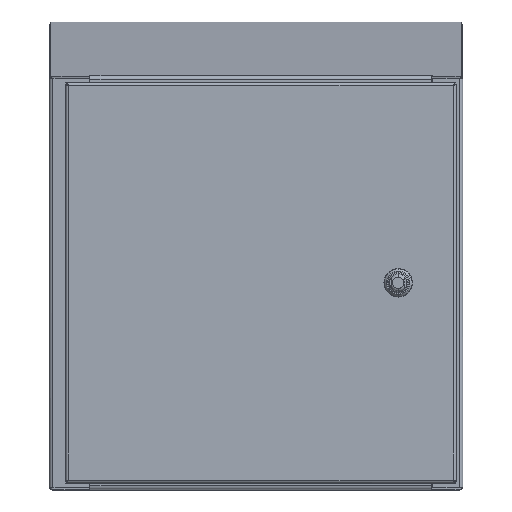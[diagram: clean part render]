
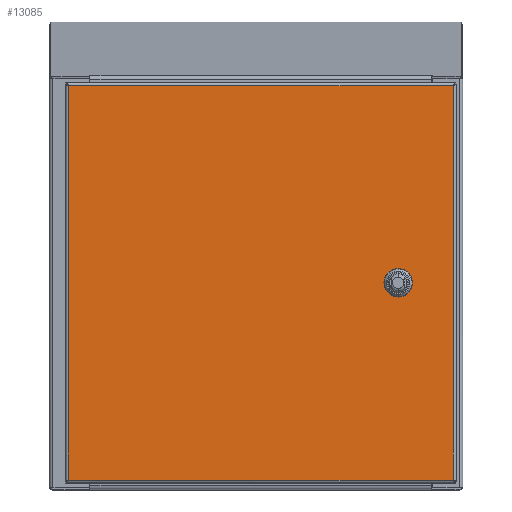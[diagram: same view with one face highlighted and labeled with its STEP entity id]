
A CAD part, top view. The second image highlights one B-rep face of the part: STEP entity #13085.
In plain terms, the highlighted planar face has unit normal (0, 0, 1).
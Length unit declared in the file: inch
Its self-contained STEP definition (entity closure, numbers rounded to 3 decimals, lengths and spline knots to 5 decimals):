
#10760=CARTESIAN_POINT('',(5.3125,0.,0.));
#10761=DIRECTION('',(0.,0.,1.));
#10762=DIRECTION('',(-0.448,0.894,0.));
#10763=AXIS2_PLACEMENT_3D('',#10760,#10761,#10762);
#10768=DIRECTION('',(0.,-1.,0.));
#10769=VECTOR('',#10768,0.39715);
#10770=CARTESIAN_POINT('',(4.9165,0.19858,0.));
#10771=LINE('',#10770,#10769);
#10775=CARTESIAN_POINT('',(5.3125,0.,0.));
#10776=DIRECTION('',(0.,0.,1.));
#10777=DIRECTION('',(-0.894,-0.448,0.));
#10778=AXIS2_PLACEMENT_3D('',#10775,#10776,#10777);
#10783=DIRECTION('',(1.,0.,0.));
#10784=VECTOR('',#10783,0.39715);
#10785=CARTESIAN_POINT('',(5.11392,-0.396,0.));
#10786=LINE('',#10785,#10784);
#10790=CARTESIAN_POINT('',(5.3125,0.,0.));
#10791=DIRECTION('',(0.,0.,1.));
#10792=DIRECTION('',(0.448,-0.894,0.));
#10793=AXIS2_PLACEMENT_3D('',#10790,#10791,#10792);
#10798=DIRECTION('',(0.,1.,0.));
#10799=VECTOR('',#10798,0.39715);
#10800=CARTESIAN_POINT('',(5.7085,-0.19858,0.));
#10801=LINE('',#10800,#10799);
#10805=CARTESIAN_POINT('',(5.3125,0.,0.));
#10806=DIRECTION('',(0.,0.,1.));
#10807=DIRECTION('',(0.894,0.448,0.));
#10808=AXIS2_PLACEMENT_3D('',#10805,#10806,#10807);
#10813=DIRECTION('',(-1.,0.,0.));
#10814=VECTOR('',#10813,0.39715);
#10815=CARTESIAN_POINT('',(5.51108,0.396,0.));
#10816=LINE('',#10815,#10814);
#11066=DIRECTION('',(-1.,0.,0.));
#11067=VECTOR('',#11066,14.885);
#11068=CARTESIAN_POINT('',(7.4425,-7.63,0.));
#11069=LINE('',#11068,#11067);
#11178=DIRECTION('',(0.,-1.,0.));
#11179=VECTOR('',#11178,15.26);
#11180=CARTESIAN_POINT('',(7.4425,7.63,0.));
#11181=LINE('',#11180,#11179);
#11227=DIRECTION('',(1.,0.,0.));
#11228=VECTOR('',#11227,14.885);
#11229=CARTESIAN_POINT('',(-7.4425,7.63,0.));
#11230=LINE('',#11229,#11228);
#11346=DIRECTION('',(0.,1.,0.));
#11347=VECTOR('',#11346,15.26);
#11348=CARTESIAN_POINT('',(-7.4425,-7.63,0.));
#11349=LINE('',#11348,#11347);
#12806=CARTESIAN_POINT('',(7.4425,7.63,0.));
#12807=CARTESIAN_POINT('',(7.4425,-7.63,0.));
#12808=VERTEX_POINT('',#12806);
#12809=VERTEX_POINT('',#12807);
#12810=CARTESIAN_POINT('',(-7.4425,-7.63,0.));
#12811=CARTESIAN_POINT('',(-7.4425,7.63,0.));
#12812=VERTEX_POINT('',#12810);
#12813=VERTEX_POINT('',#12811);
#12854=CARTESIAN_POINT('',(5.11392,0.396,0.));
#12855=CARTESIAN_POINT('',(4.9165,0.19858,0.));
#12856=VERTEX_POINT('',#12854);
#12857=VERTEX_POINT('',#12855);
#12858=CARTESIAN_POINT('',(4.9165,-0.19858,0.));
#12859=VERTEX_POINT('',#12858);
#12860=CARTESIAN_POINT('',(5.11392,-0.396,0.));
#12861=VERTEX_POINT('',#12860);
#12862=CARTESIAN_POINT('',(5.51108,-0.396,0.));
#12863=VERTEX_POINT('',#12862);
#12864=CARTESIAN_POINT('',(5.7085,-0.19858,0.));
#12865=VERTEX_POINT('',#12864);
#12866=CARTESIAN_POINT('',(5.7085,0.19858,0.));
#12867=VERTEX_POINT('',#12866);
#12868=CARTESIAN_POINT('',(5.51108,0.396,0.));
#12869=VERTEX_POINT('',#12868);
#13052=CARTESIAN_POINT('',(0.,0.,0.));
#13053=DIRECTION('',(0.,0.,-1.));
#13054=DIRECTION('',(1.,0.,0.));
#13055=AXIS2_PLACEMENT_3D('',#13052,#13053,#13054);
#13056=PLANE('',#13055);
#13058=ORIENTED_EDGE('',*,*,#13057,.T.);
#13060=ORIENTED_EDGE('',*,*,#13059,.T.);
#13062=ORIENTED_EDGE('',*,*,#13061,.T.);
#13064=ORIENTED_EDGE('',*,*,#13063,.T.);
#13065=EDGE_LOOP('',(#13058,#13060,#13062,#13064));
#13066=FACE_OUTER_BOUND('',#13065,.F.);
#13068=ORIENTED_EDGE('',*,*,#13067,.T.);
#13070=ORIENTED_EDGE('',*,*,#13069,.T.);
#13072=ORIENTED_EDGE('',*,*,#13071,.T.);
#13074=ORIENTED_EDGE('',*,*,#13073,.T.);
#13076=ORIENTED_EDGE('',*,*,#13075,.T.);
#13078=ORIENTED_EDGE('',*,*,#13077,.T.);
#13080=ORIENTED_EDGE('',*,*,#13079,.T.);
#13082=ORIENTED_EDGE('',*,*,#13081,.T.);
#13083=EDGE_LOOP('',(#13068,#13070,#13072,#13074,#13076,#13078,#13080,#13082));
#13084=FACE_BOUND('',#13083,.F.);
#10764=CIRCLE('',#10763,0.443);
#10779=CIRCLE('',#10778,0.443);
#10794=CIRCLE('',#10793,0.443);
#10809=CIRCLE('',#10808,0.443);
#13057=EDGE_CURVE('',#12809,#12812,#11069,.T.);
#13059=EDGE_CURVE('',#12812,#12813,#11349,.T.);
#13061=EDGE_CURVE('',#12813,#12808,#11230,.T.);
#13063=EDGE_CURVE('',#12808,#12809,#11181,.T.);
#13067=EDGE_CURVE('',#12856,#12857,#10764,.T.);
#13069=EDGE_CURVE('',#12857,#12859,#10771,.T.);
#13071=EDGE_CURVE('',#12859,#12861,#10779,.T.);
#13073=EDGE_CURVE('',#12861,#12863,#10786,.T.);
#13075=EDGE_CURVE('',#12863,#12865,#10794,.T.);
#13077=EDGE_CURVE('',#12865,#12867,#10801,.T.);
#13079=EDGE_CURVE('',#12867,#12869,#10809,.T.);
#13081=EDGE_CURVE('',#12869,#12856,#10816,.T.);
#13085=ADVANCED_FACE('',(#13066,#13084),#13056,.F.);
